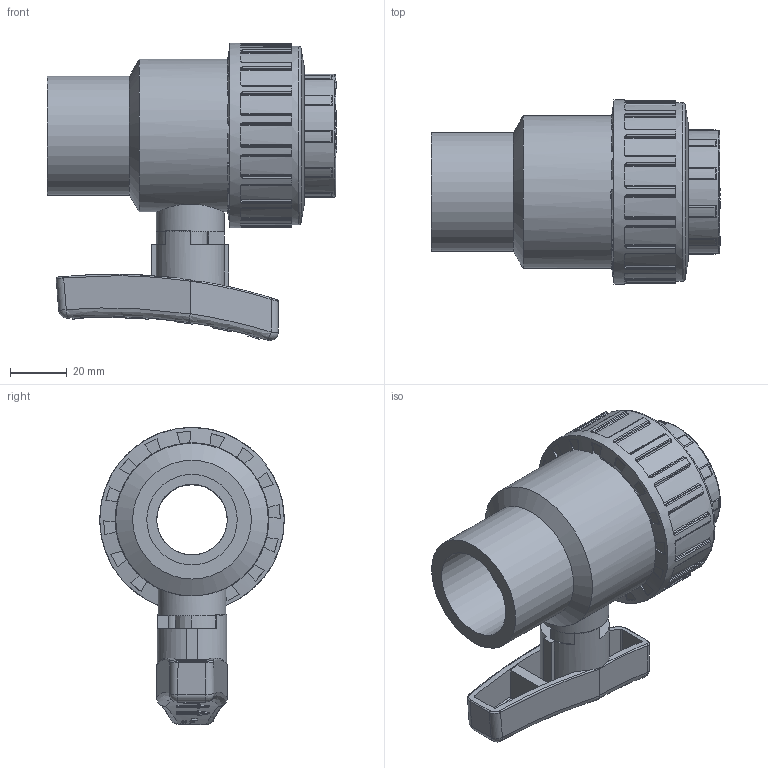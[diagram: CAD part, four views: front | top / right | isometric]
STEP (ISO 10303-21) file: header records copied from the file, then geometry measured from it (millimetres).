
FILE_DESCRIPTION(/* description */ (''),/* implementation_level */ '2;1');
FILE_NAME(/* name */ 'C:\ex desktop\VALVOLE SFERA\BV ACQUA\VALVOLE BVS MM\BVS40\BVS40032\BVS40032_new_handle.stp',/* time_stamp */ '2019-04-17T09:51:17+02:00',/* author */ ('e.sacchi'),/* organization */ (''),/* preprocessor_version */ 'ST-DEVELOPER v16.13',/* originating_system */ 'Autodesk Inventor 2018',/* authorisation */ '');
FILE_SCHEMA (('AUTOMOTIVE_DESIGN { 1 0 10303 214 3 1 1 }'));
Length unit declared in the file: millimetre
Products named in the file (13): BVS10032; CORPO_BVS_10_d_32; ASTA_BVI_40_d_32; SFERA_BVI_10_d_32; LAV03037E; supporto_BVD_40_d_32; LAV2118E; PTFE_BVI_10_d_32; LAV0144E; LAV4125E; COLLARE_BVD_10_D32; GHIERA_BVI_40_d_32; maniglia_BVI_10_d_32
Assembly tree (15 placements, depth 2):
  BVS10032
    CORPO_BVS_10_d_32
    ASTA_BVI_40_d_32
    SFERA_BVI_10_d_32
    LAV03037E  x2
    LAV2118E  x2
    PTFE_BVI_10_d_32  x2
    supporto_BVD_40_d_32
    LAV0144E
    LAV4125E
    COLLARE_BVD_10_D32
    GHIERA_BVI_40_d_32
    maniglia_BVI_10_d_32
Bounding box: 102.26 x 65.2 x 105.07 mm (x, y, z)
Volume: 168644 mm3; surface area: 87860.3 mm2
Topology: 17 solids, 17 shells, 1117 faces, 2991 edges, 1963 vertices
Faces by surface type: plane 528, bspline 251, cylinder 250, torus 68, cone 11, sphere 9
Full cylindrical faces by diameter (mm): 9.556 x1, 10.156 x1, 11.5 x1, 12 x1, 13 x1, 24 x1, 25 x4, 29 x2, 31 x1, 32 x2, 34 x4, 38.6 x1, 42 x1, 43 x1, 43.5 x1, 45 x1, 45.816 x2, 47 x3, 54 x3, 54.3 x6, 63.2 x1, 65.2 x1
Entity records: 49245 total; most frequent: CARTESIAN_POINT 22533, ORIENTED_EDGE 5778, DIRECTION 4969, EDGE_CURVE 2889, VERTEX_POINT 1925, AXIS2_PLACEMENT_3D 1750, LINE 1469, VECTOR 1469
